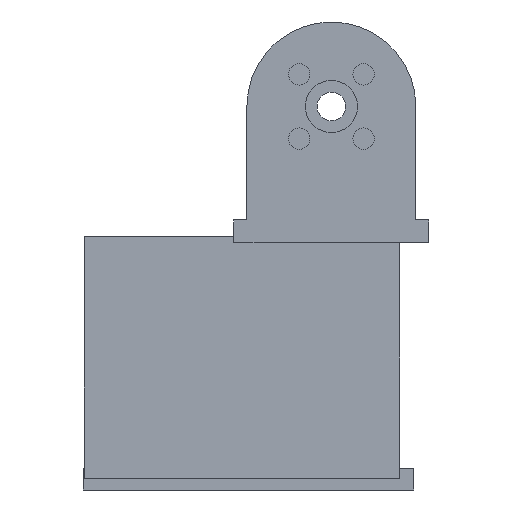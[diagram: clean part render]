
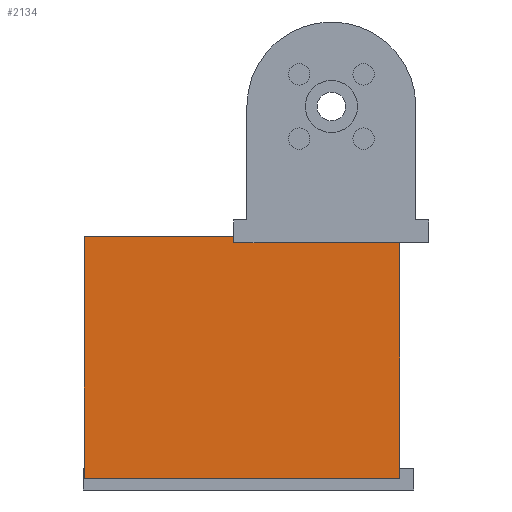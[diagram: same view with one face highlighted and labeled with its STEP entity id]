
A CAD part, front view. The second image highlights one B-rep face of the part: STEP entity #2134.
In plain terms, the highlighted planar face has unit normal (0, -1, 0).
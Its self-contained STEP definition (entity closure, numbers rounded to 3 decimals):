
#503 = PLANE('',#504);
#504 = AXIS2_PLACEMENT_3D('',#505,#506,#507);
#505 = CARTESIAN_POINT('',(-15.,-24.25,-20.956));
#506 = DIRECTION('',(1.,0.,0.));
#507 = DIRECTION('',(0.,0.,1.));
#531 = PLANE('',#532);
#532 = AXIS2_PLACEMENT_3D('',#533,#534,#535);
#533 = CARTESIAN_POINT('',(-13.,-24.25,-20.956));
#534 = DIRECTION('',(0.,0.,1.));
#535 = DIRECTION('',(1.,0.,0.));
#1150 = VERTEX_POINT('',#1151);
#1151 = CARTESIAN_POINT('',(-15.,-15.2,-20.956));
#1172 = EDGE_CURVE('',#1150,#1173,#1175,.T.);
#1173 = VERTEX_POINT('',#1174);
#1174 = CARTESIAN_POINT('',(-15.,-15.2,-20.));
#1175 = SURFACE_CURVE('',#1176,(#1180,#1186),.PCURVE_S1.);
#1176 = LINE('',#1177,#1178);
#1177 = CARTESIAN_POINT('',(-15.,-15.2,-20.478));
#1178 = VECTOR('',#1179,1.);
#1179 = DIRECTION('',(0.,0.,1.));
#1180 = PCURVE('',#503,#1181);
#1181 = DEFINITIONAL_REPRESENTATION('',(#1182),#1185);
#1182 = B_SPLINE_CURVE_WITH_KNOTS('',1,(#1183,#1184),.UNSPECIFIED.,.F.,
  .F.,(2,2),(-0.478,0.478),.PIECEWISE_BEZIER_KNOTS.);
#1183 = CARTESIAN_POINT('',(0.,-9.05));
#1184 = CARTESIAN_POINT('',(0.956,-9.05));
#1185 = ( GEOMETRIC_REPRESENTATION_CONTEXT(2) 
PARAMETRIC_REPRESENTATION_CONTEXT() REPRESENTATION_CONTEXT('2D SPACE',''
  ) );
#1186 = PCURVE('',#1187,#1192);
#1187 = PLANE('',#1188);
#1188 = AXIS2_PLACEMENT_3D('',#1189,#1190,#1191);
#1189 = CARTESIAN_POINT('',(10.5,-15.2,-20.));
#1190 = DIRECTION('',(0.,1.,0.));
#1191 = DIRECTION('',(0.,0.,-1.));
#1192 = DEFINITIONAL_REPRESENTATION('',(#1193),#1196);
#1193 = B_SPLINE_CURVE_WITH_KNOTS('',1,(#1194,#1195),.UNSPECIFIED.,.F.,
  .F.,(2,2),(-0.478,0.478),.PIECEWISE_BEZIER_KNOTS.);
#1194 = CARTESIAN_POINT('',(0.956,25.5));
#1195 = CARTESIAN_POINT('',(0.,25.5));
#1196 = ( GEOMETRIC_REPRESENTATION_CONTEXT(2) 
PARAMETRIC_REPRESENTATION_CONTEXT() REPRESENTATION_CONTEXT('2D SPACE',''
  ) );
#1213 = PLANE('',#1214);
#1214 = AXIS2_PLACEMENT_3D('',#1215,#1216,#1217);
#1215 = CARTESIAN_POINT('',(10.5,-15.2,-20.));
#1216 = DIRECTION('',(0.,0.,-1.));
#1217 = DIRECTION('',(-1.,0.,0.));
#1471 = VERTEX_POINT('',#1472);
#1472 = CARTESIAN_POINT('',(10.5,-15.2,-20.956));
#1485 = PLANE('',#1486);
#1486 = AXIS2_PLACEMENT_3D('',#1487,#1488,#1489);
#1487 = CARTESIAN_POINT('',(10.5,-15.2,-20.));
#1488 = DIRECTION('',(-1.,0.,0.));
#1489 = DIRECTION('',(0.,0.,-1.));
#1496 = EDGE_CURVE('',#1471,#1150,#1497,.T.);
#1497 = SURFACE_CURVE('',#1498,(#1502,#1508),.PCURVE_S1.);
#1498 = LINE('',#1499,#1500);
#1499 = CARTESIAN_POINT('',(-1.25,-15.2,-20.956));
#1500 = VECTOR('',#1501,1.);
#1501 = DIRECTION('',(-1.,0.,0.));
#1502 = PCURVE('',#531,#1503);
#1503 = DEFINITIONAL_REPRESENTATION('',(#1504),#1507);
#1504 = B_SPLINE_CURVE_WITH_KNOTS('',1,(#1505,#1506),.UNSPECIFIED.,.F.,
  .F.,(2,2),(-11.75,13.75),.PIECEWISE_BEZIER_KNOTS.);
#1505 = CARTESIAN_POINT('',(23.5,9.05));
#1506 = CARTESIAN_POINT('',(-2.,9.05));
#1507 = ( GEOMETRIC_REPRESENTATION_CONTEXT(2) 
PARAMETRIC_REPRESENTATION_CONTEXT() REPRESENTATION_CONTEXT('2D SPACE',''
  ) );
#1508 = PCURVE('',#1187,#1509);
#1509 = DEFINITIONAL_REPRESENTATION('',(#1510),#1513);
#1510 = B_SPLINE_CURVE_WITH_KNOTS('',1,(#1511,#1512),.UNSPECIFIED.,.F.,
  .F.,(2,2),(-11.75,13.75),.PIECEWISE_BEZIER_KNOTS.);
#1511 = CARTESIAN_POINT('',(0.956,0.));
#1512 = CARTESIAN_POINT('',(0.956,25.5));
#1513 = ( GEOMETRIC_REPRESENTATION_CONTEXT(2) 
PARAMETRIC_REPRESENTATION_CONTEXT() REPRESENTATION_CONTEXT('2D SPACE',''
  ) );
#2004 = PLANE('',#2005);
#2005 = AXIS2_PLACEMENT_3D('',#2006,#2007,#2008);
#2006 = CARTESIAN_POINT('',(-38.,-15.2,-20.));
#2007 = DIRECTION('',(-1.,0.,0.));
#2008 = DIRECTION('',(0.,0.,-1.));
#2021 = EDGE_CURVE('',#1173,#2022,#2024,.T.);
#2022 = VERTEX_POINT('',#2023);
#2023 = CARTESIAN_POINT('',(-38.,-15.2,-20.));
#2024 = SURFACE_CURVE('',#2025,(#2029,#2036),.PCURVE_S1.);
#2025 = LINE('',#2026,#2027);
#2026 = CARTESIAN_POINT('',(10.5,-15.2,-20.));
#2027 = VECTOR('',#2028,1.);
#2028 = DIRECTION('',(-1.,0.,0.));
#2029 = PCURVE('',#1213,#2030);
#2030 = DEFINITIONAL_REPRESENTATION('',(#2031),#2035);
#2031 = LINE('',#2032,#2033);
#2032 = CARTESIAN_POINT('',(0.,0.));
#2033 = VECTOR('',#2034,1.);
#2034 = DIRECTION('',(1.,0.));
#2035 = ( GEOMETRIC_REPRESENTATION_CONTEXT(2) 
PARAMETRIC_REPRESENTATION_CONTEXT() REPRESENTATION_CONTEXT('2D SPACE',''
  ) );
#2036 = PCURVE('',#1187,#2037);
#2037 = DEFINITIONAL_REPRESENTATION('',(#2038),#2042);
#2038 = LINE('',#2039,#2040);
#2039 = CARTESIAN_POINT('',(0.,0.));
#2040 = VECTOR('',#2041,1.);
#2041 = DIRECTION('',(0.,1.));
#2042 = ( GEOMETRIC_REPRESENTATION_CONTEXT(2) 
PARAMETRIC_REPRESENTATION_CONTEXT() REPRESENTATION_CONTEXT('2D SPACE',''
  ) );
#2134 = ADVANCED_FACE('',(#2135),#1187,.F.);
#2135 = FACE_BOUND('',#2136,.F.);
#2136 = EDGE_LOOP('',(#2137,#2138,#2139,#2140,#2163,#2191));
#2137 = ORIENTED_EDGE('',*,*,#2021,.F.);
#2138 = ORIENTED_EDGE('',*,*,#1172,.F.);
#2139 = ORIENTED_EDGE('',*,*,#1496,.F.);
#2140 = ORIENTED_EDGE('',*,*,#2141,.T.);
#2141 = EDGE_CURVE('',#1471,#2142,#2144,.T.);
#2142 = VERTEX_POINT('',#2143);
#2143 = CARTESIAN_POINT('',(10.5,-15.2,-57.2));
#2144 = SURFACE_CURVE('',#2145,(#2149,#2156),.PCURVE_S1.);
#2145 = LINE('',#2146,#2147);
#2146 = CARTESIAN_POINT('',(10.5,-15.2,-20.));
#2147 = VECTOR('',#2148,1.);
#2148 = DIRECTION('',(0.,0.,-1.));
#2149 = PCURVE('',#1187,#2150);
#2150 = DEFINITIONAL_REPRESENTATION('',(#2151),#2155);
#2151 = LINE('',#2152,#2153);
#2152 = CARTESIAN_POINT('',(0.,0.));
#2153 = VECTOR('',#2154,1.);
#2154 = DIRECTION('',(1.,0.));
#2155 = ( GEOMETRIC_REPRESENTATION_CONTEXT(2) 
PARAMETRIC_REPRESENTATION_CONTEXT() REPRESENTATION_CONTEXT('2D SPACE',''
  ) );
#2156 = PCURVE('',#1485,#2157);
#2157 = DEFINITIONAL_REPRESENTATION('',(#2158),#2162);
#2158 = LINE('',#2159,#2160);
#2159 = CARTESIAN_POINT('',(0.,0.));
#2160 = VECTOR('',#2161,1.);
#2161 = DIRECTION('',(1.,0.));
#2162 = ( GEOMETRIC_REPRESENTATION_CONTEXT(2) 
PARAMETRIC_REPRESENTATION_CONTEXT() REPRESENTATION_CONTEXT('2D SPACE',''
  ) );
#2163 = ORIENTED_EDGE('',*,*,#2164,.T.);
#2164 = EDGE_CURVE('',#2142,#2165,#2167,.T.);
#2165 = VERTEX_POINT('',#2166);
#2166 = CARTESIAN_POINT('',(-38.,-15.2,-57.2));
#2167 = SURFACE_CURVE('',#2168,(#2172,#2179),.PCURVE_S1.);
#2168 = LINE('',#2169,#2170);
#2169 = CARTESIAN_POINT('',(10.5,-15.2,-57.2));
#2170 = VECTOR('',#2171,1.);
#2171 = DIRECTION('',(-1.,0.,0.));
#2172 = PCURVE('',#1187,#2173);
#2173 = DEFINITIONAL_REPRESENTATION('',(#2174),#2178);
#2174 = LINE('',#2175,#2176);
#2175 = CARTESIAN_POINT('',(37.2,0.));
#2176 = VECTOR('',#2177,1.);
#2177 = DIRECTION('',(0.,1.));
#2178 = ( GEOMETRIC_REPRESENTATION_CONTEXT(2) 
PARAMETRIC_REPRESENTATION_CONTEXT() REPRESENTATION_CONTEXT('2D SPACE',''
  ) );
#2179 = PCURVE('',#2180,#2185);
#2180 = PLANE('',#2181);
#2181 = AXIS2_PLACEMENT_3D('',#2182,#2183,#2184);
#2182 = CARTESIAN_POINT('',(10.5,-15.2,-57.2));
#2183 = DIRECTION('',(0.,0.,-1.));
#2184 = DIRECTION('',(-1.,0.,0.));
#2185 = DEFINITIONAL_REPRESENTATION('',(#2186),#2190);
#2186 = LINE('',#2187,#2188);
#2187 = CARTESIAN_POINT('',(0.,0.));
#2188 = VECTOR('',#2189,1.);
#2189 = DIRECTION('',(1.,0.));
#2190 = ( GEOMETRIC_REPRESENTATION_CONTEXT(2) 
PARAMETRIC_REPRESENTATION_CONTEXT() REPRESENTATION_CONTEXT('2D SPACE',''
  ) );
#2191 = ORIENTED_EDGE('',*,*,#2192,.F.);
#2192 = EDGE_CURVE('',#2022,#2165,#2193,.T.);
#2193 = SURFACE_CURVE('',#2194,(#2198,#2205),.PCURVE_S1.);
#2194 = LINE('',#2195,#2196);
#2195 = CARTESIAN_POINT('',(-38.,-15.2,-20.));
#2196 = VECTOR('',#2197,1.);
#2197 = DIRECTION('',(0.,0.,-1.));
#2198 = PCURVE('',#1187,#2199);
#2199 = DEFINITIONAL_REPRESENTATION('',(#2200),#2204);
#2200 = LINE('',#2201,#2202);
#2201 = CARTESIAN_POINT('',(0.,48.5));
#2202 = VECTOR('',#2203,1.);
#2203 = DIRECTION('',(1.,0.));
#2204 = ( GEOMETRIC_REPRESENTATION_CONTEXT(2) 
PARAMETRIC_REPRESENTATION_CONTEXT() REPRESENTATION_CONTEXT('2D SPACE',''
  ) );
#2205 = PCURVE('',#2004,#2206);
#2206 = DEFINITIONAL_REPRESENTATION('',(#2207),#2211);
#2207 = LINE('',#2208,#2209);
#2208 = CARTESIAN_POINT('',(0.,0.));
#2209 = VECTOR('',#2210,1.);
#2210 = DIRECTION('',(1.,0.));
#2211 = ( GEOMETRIC_REPRESENTATION_CONTEXT(2) 
PARAMETRIC_REPRESENTATION_CONTEXT() REPRESENTATION_CONTEXT('2D SPACE',''
  ) );
